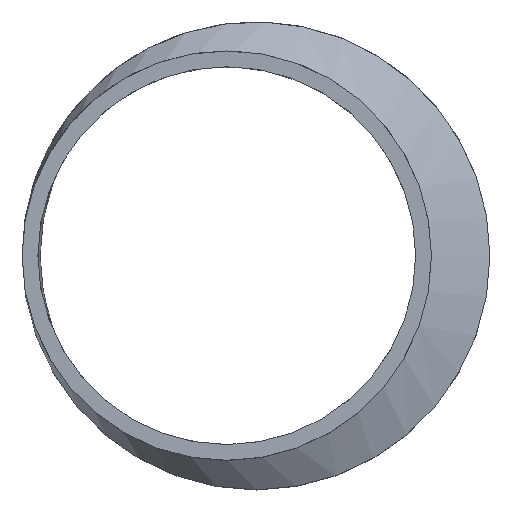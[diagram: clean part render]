
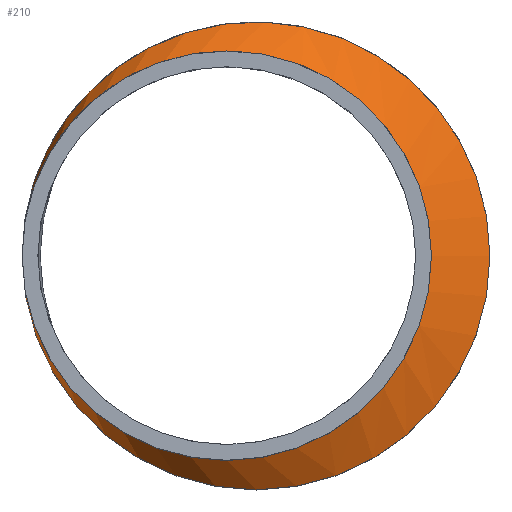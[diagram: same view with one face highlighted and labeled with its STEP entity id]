
A CAD part, top view. The second image highlights one B-rep face of the part: STEP entity #210.
In plain terms, the highlighted free-form (B-spline) face has degree [1, 2] with [2, 9] control points.
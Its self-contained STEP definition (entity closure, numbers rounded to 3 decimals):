
#15=B_SPLINE_CURVE_WITH_KNOTS($,1,(#401,#402),.UNSPECIFIED.,.F.,.F.,(2,
2),(-0.185,0.),.UNSPECIFIED.);
#17=(
BOUNDED_SURFACE()
B_SPLINE_SURFACE(1,2,((#379,#380,#381,#382,#383,#384,#385,#386,#387),(#388,
#389,#390,#391,#392,#393,#394,#395,#396)),.UNSPECIFIED.,.F.,.T.,.F.)
B_SPLINE_SURFACE_WITH_KNOTS((2,2),(3,2,2,2,3),(-1.25,0.597),
(-3.142,-1.571,0.,1.571,3.142),
 .UNSPECIFIED.)
GEOMETRIC_REPRESENTATION_ITEM()
RATIONAL_B_SPLINE_SURFACE(((1.,0.707,1.,0.707,1.,
0.707,1.,0.707,1.),(1.,0.707,1.,0.707,
1.,0.707,1.,0.707,1.)))
REPRESENTATION_ITEM($)
SURFACE()
);
#47=FACE_OUTER_BOUND($,#67,.T.);
#67=EDGE_LOOP($,(#167,#168,#169,#170,#171,#172));
#83=CIRCLE($,#231,80.);
#84=CIRCLE($,#232,80.);
#93=CIRCLE($,#243,70.);
#94=CIRCLE($,#244,70.);
#103=VERTEX_POINT($,#337);
#104=VERTEX_POINT($,#338);
#113=VERTEX_POINT($,#397);
#114=VERTEX_POINT($,#398);
#123=EDGE_CURVE($,#103,#104,#83,.T.);
#124=EDGE_CURVE($,#104,#103,#84,.T.);
#134=EDGE_CURVE($,#113,#114,#93,.T.);
#135=EDGE_CURVE($,#114,#113,#94,.T.);
#136=EDGE_CURVE($,#114,#104,#15,.T.);
#167=ORIENTED_EDGE($,*,*,#134,.F.);
#168=ORIENTED_EDGE($,*,*,#135,.F.);
#169=ORIENTED_EDGE($,*,*,#136,.T.);
#170=ORIENTED_EDGE($,*,*,#123,.F.);
#171=ORIENTED_EDGE($,*,*,#124,.F.);
#172=ORIENTED_EDGE($,*,*,#136,.F.);
#210=ADVANCED_FACE($,(#47),#17,.F.);
#231=AXIS2_PLACEMENT_3D($,#339,#278,#279);
#232=AXIS2_PLACEMENT_3D($,#340,#280,#281);
#243=AXIS2_PLACEMENT_3D($,#399,#302,#303);
#244=AXIS2_PLACEMENT_3D($,#400,#304,#305);
#278=DIRECTION('center_axis',(0.,0.,-1.));
#279=DIRECTION('ref_axis',(-1.,0.,0.));
#280=DIRECTION('center_axis',(0.,0.,-1.));
#281=DIRECTION('ref_axis',(-1.,0.,0.));
#302=DIRECTION('center_axis',(0.,0.,1.));
#303=DIRECTION('ref_axis',(-1.,0.,0.));
#304=DIRECTION('center_axis',(0.,0.,1.));
#305=DIRECTION('ref_axis',(-1.,0.,0.));
#337=CARTESIAN_POINT('',(80.,0.,35.));
#338=CARTESIAN_POINT('',(-36.67,71.101,35.));
#339=CARTESIAN_POINT('Origin',(0.,0.,35.));
#340=CARTESIAN_POINT('Origin',(0.,0.,35.));
#379=CARTESIAN_POINT('Ctrl Pts',(0.,131.273,-19.163));
#380=CARTESIAN_POINT('Ctrl Pts',(-80.,131.273,-73.325));
#381=CARTESIAN_POINT('Ctrl Pts',(-80.,0.,-73.325));
#382=CARTESIAN_POINT('Ctrl Pts',(-80.,-131.273,-73.325));
#383=CARTESIAN_POINT('Ctrl Pts',(0.,-131.273,
-19.163));
#384=CARTESIAN_POINT('Ctrl Pts',(80.,-131.273,35.));
#385=CARTESIAN_POINT('Ctrl Pts',(80.,0.,35.));
#386=CARTESIAN_POINT('Ctrl Pts',(80.,131.273,35.));
#387=CARTESIAN_POINT('Ctrl Pts',(0.,131.273,-19.163));
#388=CARTESIAN_POINT('Ctrl Pts',(-54.177,42.373,60.859));
#389=CARTESIAN_POINT('Ctrl Pts',(-80.,42.373,43.376));
#390=CARTESIAN_POINT('Ctrl Pts',(-80.,0.,43.376));
#391=CARTESIAN_POINT('Ctrl Pts',(-80.,-42.373,43.376));
#392=CARTESIAN_POINT('Ctrl Pts',(-54.177,-42.373,60.859));
#393=CARTESIAN_POINT('Ctrl Pts',(-28.354,-42.373,78.342));
#394=CARTESIAN_POINT('Ctrl Pts',(-28.354,0.,
78.342));
#395=CARTESIAN_POINT('Ctrl Pts',(-28.354,42.373,78.342));
#396=CARTESIAN_POINT('Ctrl Pts',(-54.177,42.373,60.859));
#397=CARTESIAN_POINT('',(60.,0.,43.));
#398=CARTESIAN_POINT('',(-42.086,62.213,43.));
#399=CARTESIAN_POINT('Origin',(-10.,0.,43.));
#400=CARTESIAN_POINT('Origin',(-10.,0.,43.));
#401=CARTESIAN_POINT('Ctrl Pts',(-42.086,62.213,43.));
#402=CARTESIAN_POINT('Ctrl Pts',(-36.67,71.101,35.));
